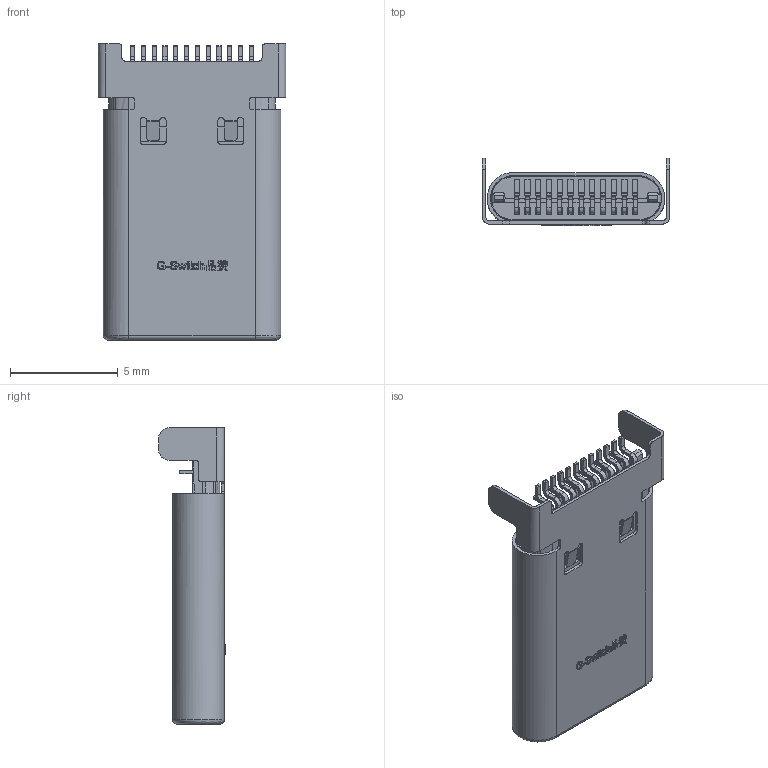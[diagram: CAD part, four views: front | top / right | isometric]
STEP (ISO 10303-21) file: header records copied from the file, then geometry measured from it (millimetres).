
FILE_DESCRIPTION (( 'STEP AP203' ), '1' );
FILE_NAME ('GT-USB-8013A.STEP', '2023-06-24T07:46:16', ( '' ), ( '' ), 'SwSTEP 2.0', 'SolidWorks 2023', '' );
FILE_SCHEMA (( 'CONFIG_CONTROL_DESIGN' ));
Length unit declared in the file: millimetre
Products named in the file (1): GT-USB-8013A
Bounding box: 8.7 x 3.1 x 13.75 mm (x, y, z)
Surface area: 1373.3 mm2 (no closed solid volume)
Topology: 0 solids, 50 shells, 2700 faces, 7894 edges, 5273 vertices
Faces by surface type: plane 1788, bspline 912
Entity records: 101388 total; most frequent: CARTESIAN_POINT 48514, ORIENTED_EDGE 15778, EDGE_CURVE 7894, B_SPLINE_CURVE_WITH_KNOTS 6450, VERTEX_POINT 5273, DIRECTION 4156, EDGE_LOOP 2827, FACE_OUTER_BOUND 2700
